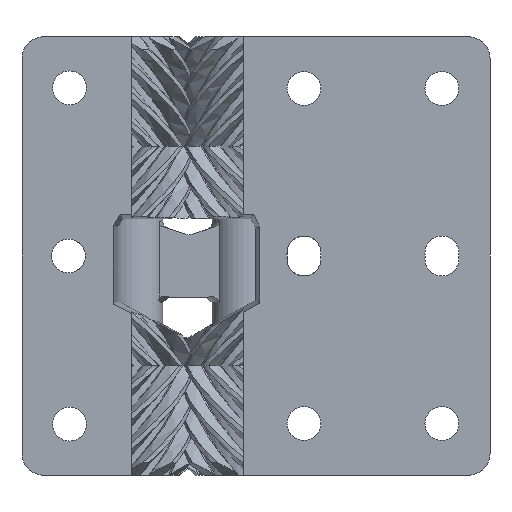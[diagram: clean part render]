
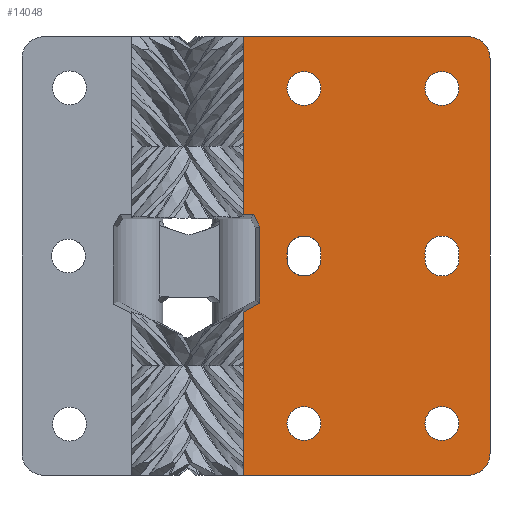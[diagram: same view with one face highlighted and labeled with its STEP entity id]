
A CAD part, front view. The second image highlights one B-rep face of the part: STEP entity #14048.
In plain terms, the highlighted planar face has unit normal (0, -1, 0).
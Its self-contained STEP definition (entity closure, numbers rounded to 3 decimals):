
#35=FACE_BOUND('',#3942,.T.);
#36=FACE_BOUND('',#3943,.T.);
#37=FACE_BOUND('',#3944,.T.);
#38=FACE_BOUND('',#3945,.T.);
#39=FACE_BOUND('',#3946,.T.);
#40=FACE_BOUND('',#3947,.T.);
#2537=PLANE('',#14774);
#3075=FACE_OUTER_BOUND('',#3941,.T.);
#3941=EDGE_LOOP('',(#11768,#11769,#11770,#11771,#11772,#11773,#11774,#11775,
#11776,#11777,#11778));
#3942=EDGE_LOOP('',(#11779,#11780));
#3943=EDGE_LOOP('',(#11781));
#3944=EDGE_LOOP('',(#11782));
#3945=EDGE_LOOP('',(#11783,#11784));
#3946=EDGE_LOOP('',(#11785));
#3947=EDGE_LOOP('',(#11786));
#4467=LINE('',#35748,#4782);
#4470=LINE('',#35758,#4785);
#4486=LINE('',#36562,#4801);
#4489=LINE('',#36678,#4804);
#4492=LINE('',#36684,#4807);
#4496=LINE('',#36743,#4811);
#4508=LINE('',#38199,#4823);
#4524=LINE('',#40453,#4839);
#4525=LINE('',#40457,#4840);
#4782=VECTOR('',#15707,10.);
#4785=VECTOR('',#15716,10.);
#4801=VECTOR('',#15812,10.);
#4804=VECTOR('',#15821,10.);
#4807=VECTOR('',#15826,10.);
#4811=VECTOR('',#15834,10.);
#4823=VECTOR('',#15866,10.);
#4839=VECTOR('',#15914,10.);
#4840=VECTOR('',#15917,10.);
#5070=CIRCLE('',#14775,4.);
#5071=CIRCLE('',#14776,4.);
#5072=CIRCLE('',#14777,3.1);
#5073=CIRCLE('',#14778,3.1);
#5074=CIRCLE('',#14779,3.1);
#5075=CIRCLE('',#14780,3.1);
#5076=CIRCLE('',#14781,3.1);
#5077=CIRCLE('',#14782,3.1);
#5078=CIRCLE('',#14783,3.1);
#5079=CIRCLE('',#14784,3.1);
#5883=VERTEX_POINT('',#35699);
#5907=VERTEX_POINT('',#35746);
#5910=VERTEX_POINT('',#35755);
#5911=VERTEX_POINT('',#35757);
#6025=VERTEX_POINT('',#36560);
#6026=VERTEX_POINT('',#36561);
#6040=VERTEX_POINT('',#36677);
#6042=VERTEX_POINT('',#36683);
#6049=VERTEX_POINT('',#36741);
#6165=VERTEX_POINT('',#40454);
#6166=VERTEX_POINT('',#40456);
#6167=VERTEX_POINT('',#40459);
#6168=VERTEX_POINT('',#40460);
#6169=VERTEX_POINT('',#40463);
#6170=VERTEX_POINT('',#40465);
#6171=VERTEX_POINT('',#40467);
#6172=VERTEX_POINT('',#40468);
#6173=VERTEX_POINT('',#40471);
#6174=VERTEX_POINT('',#40473);
#7790=EDGE_CURVE('',#5883,#5907,#4467,.T.);
#7794=EDGE_CURVE('',#5911,#5910,#4470,.T.);
#7915=EDGE_CURVE('',#6025,#6026,#4486,.T.);
#7931=EDGE_CURVE('',#6026,#6040,#4489,.T.);
#7934=EDGE_CURVE('',#6040,#6042,#4492,.T.);
#7943=EDGE_CURVE('',#6042,#6049,#4496,.T.);
#8001=EDGE_CURVE('',#5907,#6025,#4508,.T.);
#8133=EDGE_CURVE('',#6049,#5911,#4524,.T.);
#8134=EDGE_CURVE('',#5910,#6165,#5070,.T.);
#8135=EDGE_CURVE('',#6165,#6166,#4525,.T.);
#8136=EDGE_CURVE('',#6166,#5883,#5071,.T.);
#8137=EDGE_CURVE('',#6167,#6168,#5072,.T.);
#8138=EDGE_CURVE('',#6168,#6167,#5073,.T.);
#8139=EDGE_CURVE('',#6169,#6169,#5074,.T.);
#8140=EDGE_CURVE('',#6170,#6170,#5075,.T.);
#8141=EDGE_CURVE('',#6171,#6172,#5076,.T.);
#8142=EDGE_CURVE('',#6172,#6171,#5077,.T.);
#8143=EDGE_CURVE('',#6173,#6173,#5078,.T.);
#8144=EDGE_CURVE('',#6174,#6174,#5079,.T.);
#11768=ORIENTED_EDGE('',*,*,#7943,.T.);
#11769=ORIENTED_EDGE('',*,*,#8133,.T.);
#11770=ORIENTED_EDGE('',*,*,#7794,.T.);
#11771=ORIENTED_EDGE('',*,*,#8134,.T.);
#11772=ORIENTED_EDGE('',*,*,#8135,.T.);
#11773=ORIENTED_EDGE('',*,*,#8136,.T.);
#11774=ORIENTED_EDGE('',*,*,#7790,.T.);
#11775=ORIENTED_EDGE('',*,*,#8001,.T.);
#11776=ORIENTED_EDGE('',*,*,#7915,.T.);
#11777=ORIENTED_EDGE('',*,*,#7931,.T.);
#11778=ORIENTED_EDGE('',*,*,#7934,.T.);
#11779=ORIENTED_EDGE('',*,*,#8137,.T.);
#11780=ORIENTED_EDGE('',*,*,#8138,.T.);
#11781=ORIENTED_EDGE('',*,*,#8139,.T.);
#11782=ORIENTED_EDGE('',*,*,#8140,.T.);
#11783=ORIENTED_EDGE('',*,*,#8141,.T.);
#11784=ORIENTED_EDGE('',*,*,#8142,.T.);
#11785=ORIENTED_EDGE('',*,*,#8143,.T.);
#11786=ORIENTED_EDGE('',*,*,#8144,.T.);
#14048=ADVANCED_FACE('',(#3075,#35,#36,#37,#38,#39,#40),#2537,.T.);
#14774=AXIS2_PLACEMENT_3D('',#40452,#15912,#15913);
#14775=AXIS2_PLACEMENT_3D('',#40455,#15915,#15916);
#14776=AXIS2_PLACEMENT_3D('',#40458,#15918,#15919);
#14777=AXIS2_PLACEMENT_3D('',#40461,#15920,#15921);
#14778=AXIS2_PLACEMENT_3D('',#40462,#15922,#15923);
#14779=AXIS2_PLACEMENT_3D('',#40464,#15924,#15925);
#14780=AXIS2_PLACEMENT_3D('',#40466,#15926,#15927);
#14781=AXIS2_PLACEMENT_3D('',#40469,#15928,#15929);
#14782=AXIS2_PLACEMENT_3D('',#40470,#15930,#15931);
#14783=AXIS2_PLACEMENT_3D('',#40472,#15932,#15933);
#14784=AXIS2_PLACEMENT_3D('',#40474,#15934,#15935);
#15707=DIRECTION('',(-1.,0.,0.));
#15716=DIRECTION('',(1.,0.,0.));
#15812=DIRECTION('',(1.,0.,0.));
#15821=DIRECTION('',(0.441,0.,-0.898));
#15826=DIRECTION('',(0.,0.,-1.));
#15834=DIRECTION('',(-0.877,0.,-0.481));
#15866=DIRECTION('',(0.,0.,-1.));
#15912=DIRECTION('center_axis',(0.,-1.,0.));
#15913=DIRECTION('ref_axis',(1.,0.,0.));
#15914=DIRECTION('',(0.,0.,-1.));
#15915=DIRECTION('center_axis',(0.,-1.,0.));
#15916=DIRECTION('ref_axis',(0.707,0.,-0.707));
#15917=DIRECTION('',(0.,0.,1.));
#15918=DIRECTION('center_axis',(0.,-1.,0.));
#15919=DIRECTION('ref_axis',(0.707,0.,0.707));
#15920=DIRECTION('center_axis',(0.,1.,0.));
#15921=DIRECTION('ref_axis',(-1.,0.,0.));
#15922=DIRECTION('center_axis',(0.,1.,0.));
#15923=DIRECTION('ref_axis',(-1.,0.,0.));
#15924=DIRECTION('center_axis',(0.,1.,0.));
#15925=DIRECTION('ref_axis',(-1.,0.,0.));
#15926=DIRECTION('center_axis',(0.,1.,0.));
#15927=DIRECTION('ref_axis',(-1.,0.,0.));
#15928=DIRECTION('center_axis',(0.,1.,0.));
#15929=DIRECTION('ref_axis',(-1.,0.,0.));
#15930=DIRECTION('center_axis',(0.,1.,0.));
#15931=DIRECTION('ref_axis',(-1.,0.,0.));
#15932=DIRECTION('center_axis',(0.,1.,0.));
#15933=DIRECTION('ref_axis',(-1.,0.,0.));
#15934=DIRECTION('center_axis',(0.,1.,0.));
#15935=DIRECTION('ref_axis',(-1.,0.,0.));
#35699=CARTESIAN_POINT('',(51.18,54.9,80.));
#35746=CARTESIAN_POINT('',(10.18,54.9,80.));
#35748=CARTESIAN_POINT('',(30.18,54.9,80.));
#35755=CARTESIAN_POINT('',(51.18,54.9,0.));
#35757=CARTESIAN_POINT('',(10.18,54.9,0.));
#35758=CARTESIAN_POINT('',(30.18,54.9,0.));
#36560=CARTESIAN_POINT('',(10.18,54.9,47.612));
#36561=CARTESIAN_POINT('',(12.073,54.9,47.612));
#36562=CARTESIAN_POINT('',(-0.825,54.9,47.612));
#36677=CARTESIAN_POINT('',(13.229,54.9,45.256));
#36678=CARTESIAN_POINT('',(21.414,54.9,28.579));
#36683=CARTESIAN_POINT('',(13.229,54.9,31.415));
#36684=CARTESIAN_POINT('',(13.229,54.9,22.535));
#36741=CARTESIAN_POINT('',(10.18,54.9,29.744));
#36743=CARTESIAN_POINT('',(5.23,54.9,27.031));
#38199=CARTESIAN_POINT('',(10.18,54.9,80.));
#40452=CARTESIAN_POINT('Origin',(10.18,54.9,0.));
#40453=CARTESIAN_POINT('',(10.18,54.9,80.));
#40454=CARTESIAN_POINT('',(55.18,54.9,4.));
#40455=CARTESIAN_POINT('Origin',(51.18,54.9,4.));
#40456=CARTESIAN_POINT('',(55.18,54.9,76.));
#40457=CARTESIAN_POINT('',(55.18,54.9,0.));
#40458=CARTESIAN_POINT('Origin',(51.18,54.9,76.));
#40459=CARTESIAN_POINT('',(18.201,54.9,40.));
#40460=CARTESIAN_POINT('',(24.301,54.9,40.));
#40461=CARTESIAN_POINT('Origin',(21.251,54.9,40.553));
#40462=CARTESIAN_POINT('Origin',(21.251,54.9,39.447));
#40463=CARTESIAN_POINT('',(24.351,54.9,70.553));
#40464=CARTESIAN_POINT('Origin',(21.251,54.9,70.553));
#40465=CARTESIAN_POINT('',(49.511,54.9,70.553));
#40466=CARTESIAN_POINT('Origin',(46.411,54.9,70.553));
#40467=CARTESIAN_POINT('',(43.361,54.9,40.));
#40468=CARTESIAN_POINT('',(49.462,54.9,40.));
#40469=CARTESIAN_POINT('Origin',(46.411,54.9,40.553));
#40470=CARTESIAN_POINT('Origin',(46.411,54.9,39.447));
#40471=CARTESIAN_POINT('',(49.511,54.9,9.447));
#40472=CARTESIAN_POINT('Origin',(46.411,54.9,9.447));
#40473=CARTESIAN_POINT('',(24.351,54.9,9.447));
#40474=CARTESIAN_POINT('Origin',(21.251,54.9,9.447));
